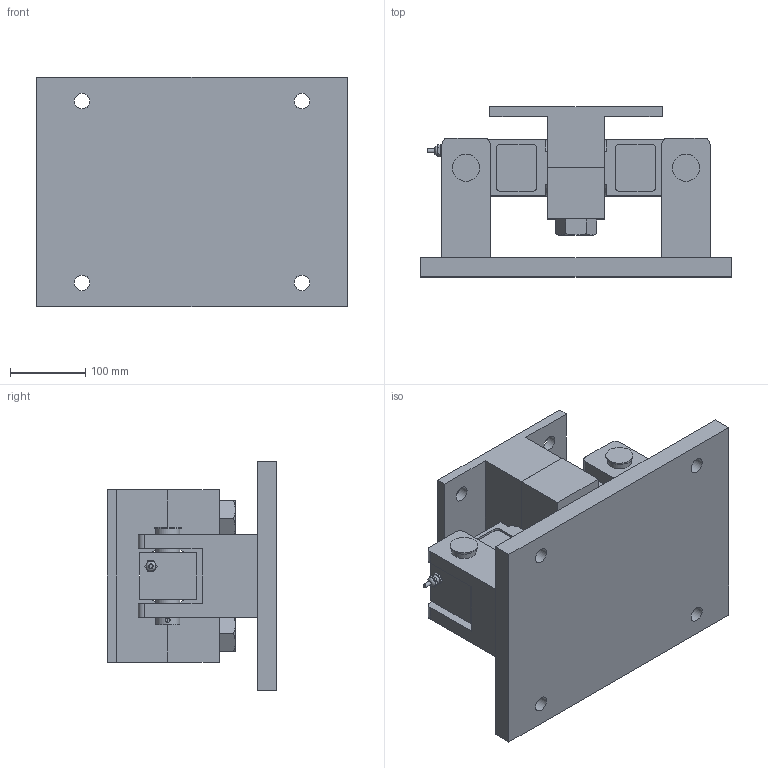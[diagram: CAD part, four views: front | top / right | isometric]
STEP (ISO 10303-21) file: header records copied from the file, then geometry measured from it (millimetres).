
FILE_DESCRIPTION(/* description */ (''),/* implementation_level */ '2;1');
FILE_NAME(/* name */ 'C:/Users/fardi/Dropbox/Work/Anyload/Load Cell Models/Product Catalog 3D/Weight Modules/102/102EHM2/102EHM2-(50-75)klb v7.step',/* time_stamp */ '2020-04-17T12:48:27-07:00',/* author */ (''),/* organization */ (''),/* preprocessor_version */ 'ST-DEVELOPER v18.1',/* originating_system */ 'Autodesk Translation Framework v9.2.0.1227',/* authorisation */ '');
FILE_SCHEMA (('AUTOMOTIVE_DESIGN { 1 0 10303 214 3 1 1 }'));
Length unit declared in the file: millimetre
Products named in the file (7): 102EHM2-(50-75)klb; Base; 102EH-(50-60)klb; Connector; Pins; Top; 91268A219
Assembly tree (7 placements, depth 3):
  102EHM2-(50-75)klb
    Base
    102EH-(50-60)klb
      Connector
    Pins
    Top
    91268A219  x2
Bounding box: 412.8 x 225.63 x 304.8 mm (x, y, z)
Volume: 8852179 mm3; surface area: 853244 mm2
Topology: 9 solids, 9 shells, 434 faces, 1141 edges, 752 vertices
Faces by surface type: cylinder 249, plane 157, cone 19, bspline 9
Full cylindrical faces by diameter (mm): 5.1 x1, 6 x2, 10 x1, 12 x2, 13 x1, 20.6 x8, 27.036 x36, 28.169 x40, 31.75 x78, 32 x2, 33 x4, 33.274 x2, 34 x2, 36 x2
Entity records: 24537 total; most frequent: CARTESIAN_POINT 16226, ORIENTED_EDGE 1806, DIRECTION 1497, EDGE_CURVE 903, VERTEX_POINT 596, AXIS2_PLACEMENT_3D 515, LINE 467, VECTOR 467
